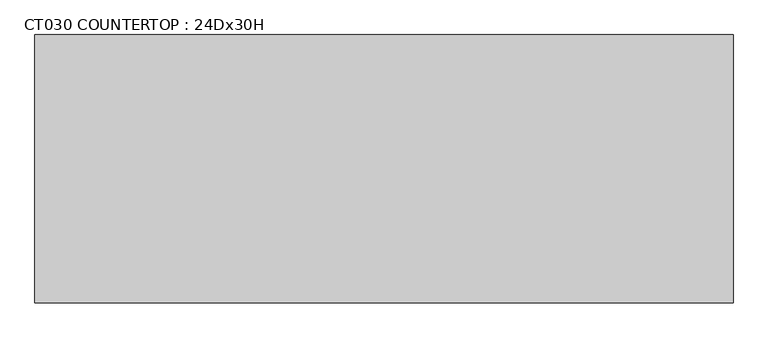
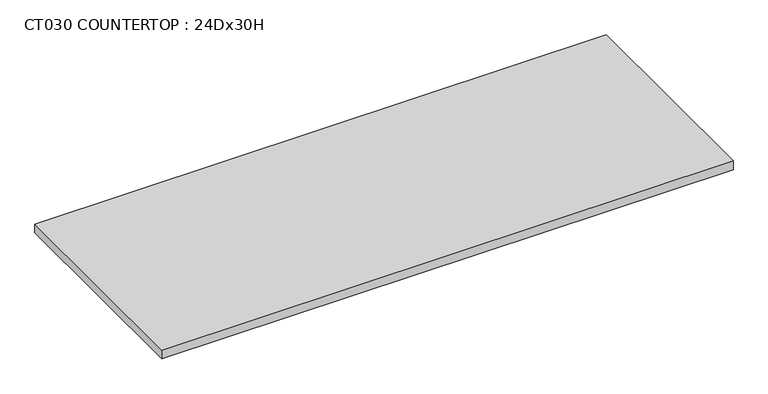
"""IFC4 building model written with IfcOpenShell, lengths in millimetres: furniture geometry, CT030 COUNTERTOP : 24Dx30H."""

from ifc_helpers import new_model, si_unit, frame, origin, place, context, project, spatial, polyline, outline, extrude, source, transform, mapped, element, save


def ct030_countertop_24dx30h_36d05423(model_context):
    return source(origin(), model_context, "Body", "SweptSolid", [
        extrude(outline(polyline([(385.449881, -615.0), (385.449881, -1224.6), (-1200.4622951, -1224.6), (-1200.4622951, -615.0), (385.449881, -615.0)])), frame((0.0, 0.0, 736.6), z_axis=(0.0, 0.0, 1.0), x_axis=(1.0, 0.0, 0.0)), (0.0, 0.0, 1.0), 25.4),
    ])


if __name__ == "__main__":
    model = new_model("IFC4")
    model_context = context("Model", 3, world=origin())
    ifc_project = project(units=[si_unit("LENGTHUNIT", "METRE", prefix="MILLI")], contexts=[model_context])
    site = spatial("IfcSite", under=ifc_project)
    building = spatial("IfcBuilding", under=site)
    placement = place(None, origin())
    ct030_countertop_24dx30h_shape = ct030_countertop_24dx30h_36d05423(model_context)
    element("IfcFurniture", 1, ObjectType="CT030 COUNTERTOP : 24Dx30H", at=placement, inside=building, context=model_context, shape_type="MappedRepresentation", body=[
        mapped(ct030_countertop_24dx30h_shape, transform((0.0, 0.0, 0.0), x_axis=(1.0, 0.0, 0.0), y_axis=(0.0, 1.0, 0.0), z_axis=(0.0, 0.0, 1.0))),
    ])
    save(model, "model.ifc")
